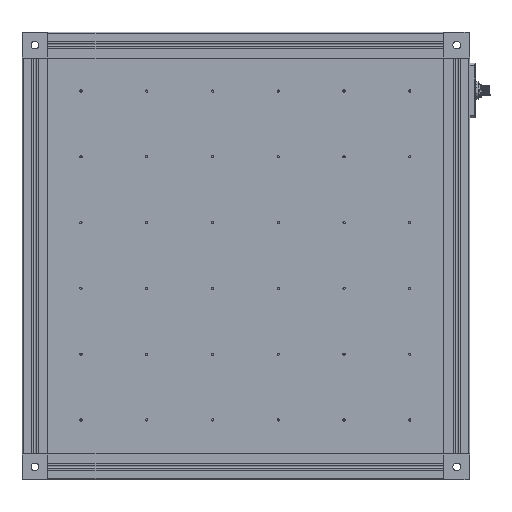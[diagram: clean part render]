
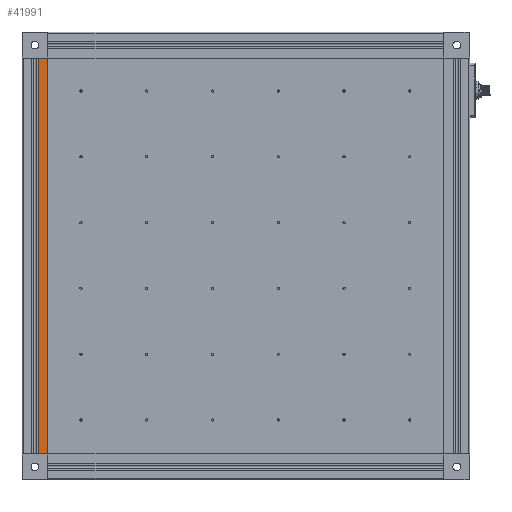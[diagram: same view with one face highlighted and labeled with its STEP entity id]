
A CAD part, front view. The second image highlights one B-rep face of the part: STEP entity #41991.
In plain terms, the highlighted planar face has unit normal (0, -1, 0) as drawn and (0, 0, 1) by its records, which use the part's own axes.
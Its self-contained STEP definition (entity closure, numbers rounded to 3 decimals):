
#507 = CARTESIAN_POINT ( 'NONE',  ( -459., -14., 15. ) ) ;
#1087 = CARTESIAN_POINT ( 'NONE',  ( 0., -4., 15. ) ) ;
#1201 = VERTEX_POINT ( 'NONE', #11474 ) ;
#2393 = PLANE ( 'NONE',  #20781 ) ;
#4157 = VERTEX_POINT ( 'NONE', #36623 ) ;
#4449 = LINE ( 'NONE', #507, #26645 ) ;
#6893 = EDGE_CURVE ( 'NONE', #1201, #22314, #43515, .T. ) ;
#7867 = DIRECTION ( 'NONE',  ( 1., 0., 0. ) ) ;
#8812 = VECTOR ( 'NONE', #7867, 1000. ) ;
#9569 = FACE_OUTER_BOUND ( 'NONE', #13810, .T. ) ;
#10516 = EDGE_CURVE ( 'NONE', #4157, #1201, #4449, .T. ) ;
#11474 = CARTESIAN_POINT ( 'NONE',  ( -459., -4., 15. ) ) ;
#11616 = VERTEX_POINT ( 'NONE', #41550 ) ;
#11796 = EDGE_CURVE ( 'NONE', #4157, #11616, #28421, .T. ) ;
#12041 = CARTESIAN_POINT ( 'NONE',  ( 0., -4., 15. ) ) ;
#13090 = DIRECTION ( 'NONE',  ( 0., -1., 0. ) ) ;
#13311 = CARTESIAN_POINT ( 'NONE',  ( -459., -4., 15. ) ) ;
#13314 = ORIENTED_EDGE ( 'NONE', *, *, #11796, .T. ) ;
#13690 = ORIENTED_EDGE ( 'NONE', *, *, #10516, .F. ) ;
#13810 = EDGE_LOOP ( 'NONE', ( #13690, #13314, #28192, #19816 ) ) ;
#14113 = VECTOR ( 'NONE', #32763, 1000. ) ;
#14600 = LINE ( 'NONE', #1087, #14113 ) ;
#19816 = ORIENTED_EDGE ( 'NONE', *, *, #6893, .F. ) ;
#20781 = AXIS2_PLACEMENT_3D ( 'NONE', #13311, #27749, #13090 ) ;
#21395 = CARTESIAN_POINT ( 'NONE',  ( -459., -15., 15. ) ) ;
#22314 = VERTEX_POINT ( 'NONE', #12041 ) ;
#26645 = VECTOR ( 'NONE', #28701, 1000. ) ;
#27749 = DIRECTION ( 'NONE',  ( 0., 0., 1. ) ) ;
#28192 = ORIENTED_EDGE ( 'NONE', *, *, #44985, .T. ) ;
#28421 = LINE ( 'NONE', #21395, #8812 ) ;
#28701 = DIRECTION ( 'NONE',  ( 0., 1., 0. ) ) ;
#32763 = DIRECTION ( 'NONE',  ( 0., 1., 0. ) ) ;
#33418 = DIRECTION ( 'NONE',  ( 1., 0., 0. ) ) ;
#36623 = CARTESIAN_POINT ( 'NONE',  ( -459., -15., 15. ) ) ;
#39982 = CARTESIAN_POINT ( 'NONE',  ( -459., -4., 15. ) ) ;
#41550 = CARTESIAN_POINT ( 'NONE',  ( 0., -15., 15. ) ) ;
#41991 = ADVANCED_FACE ( 'NONE', ( #9569 ), #2393, .T. ) ;
#43515 = LINE ( 'NONE', #39982, #45799 ) ;
#44985 = EDGE_CURVE ( 'NONE', #11616, #22314, #14600, .T. ) ;
#45799 = VECTOR ( 'NONE', #33418, 1000. ) ;
